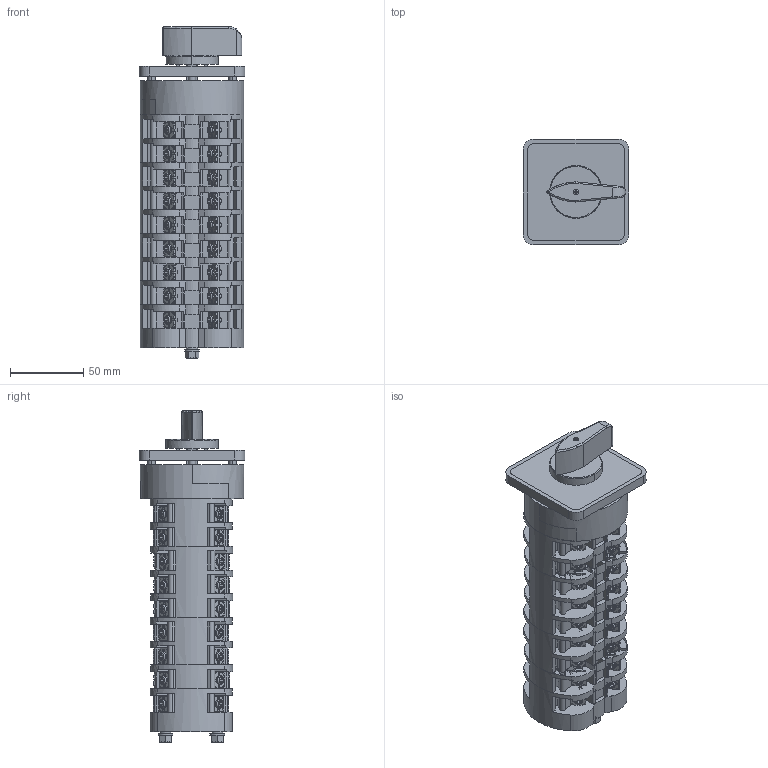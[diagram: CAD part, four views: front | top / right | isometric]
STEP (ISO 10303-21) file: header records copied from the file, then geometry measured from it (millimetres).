
FILE_DESCRIPTION((''),'2;1');
FILE_NAME('2470000100_SW0001','2025-04-08T',('sipei.wu'),(''),'PRO/ENGINEER BY PARAMETRIC TECHNOLOGY CORPORATION, 2015440','PRO/ENGINEER BY PARAMETRIC TECHNOLOGY CORPORATION, 2015440','');
FILE_SCHEMA(('CONFIG_CONTROL_DESIGN'));
Products named in the file (1): 2470000100_SW0001
Bounding box: 72 x 72 x 226.73 mm (x, y, z)
Volume: 514956.9 mm3; surface area: 153445.2 mm2
Topology: 1 solids, 45 shells, 6411 faces, 18200 edges, 11680 vertices
Faces by surface type: plane 4329, cylinder 1653, cone 182, torus 166, sphere 74, bspline 7
Entity records: 211531 total; most frequent: CARTESIAN_POINT 42847, ORIENTED_EDGE 36400, DIRECTION 34249, EDGE_CURVE 18200, VECTOR 12811, LINE 12811, VERTEX_POINT 11680, AXIS2_PLACEMENT_3D 10719
